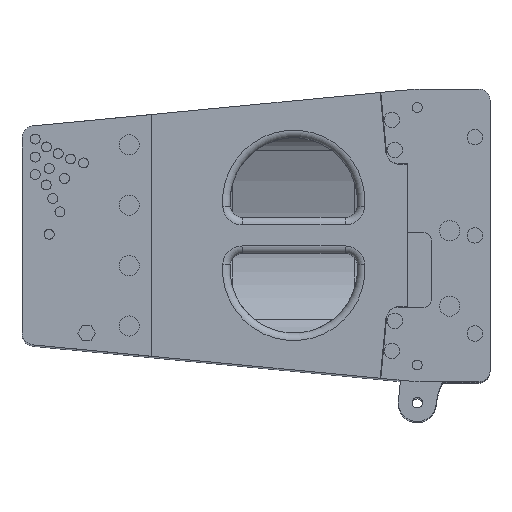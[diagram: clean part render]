
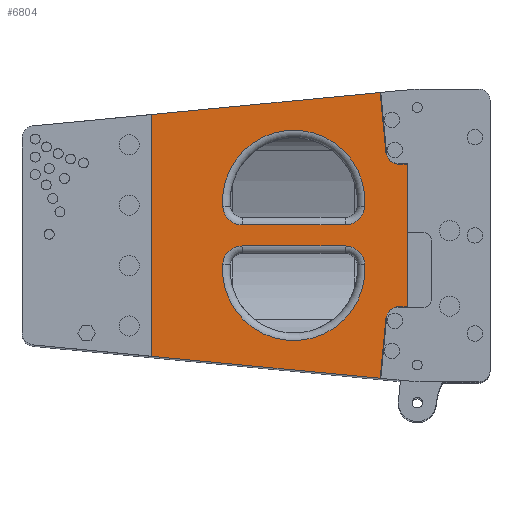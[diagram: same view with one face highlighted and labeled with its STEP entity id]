
A CAD part, top view. The second image highlights one B-rep face of the part: STEP entity #6804.
In plain terms, the highlighted planar face has unit normal (0, 0, 1).
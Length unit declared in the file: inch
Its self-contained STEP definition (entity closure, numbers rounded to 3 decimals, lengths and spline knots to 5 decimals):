
#136=FACE_BOUND('',#1496,.T.);
#137=FACE_BOUND('',#1497,.T.);
#647=CIRCLE('',#7372,0.425);
#648=CIRCLE('',#7373,0.425);
#649=CIRCLE('',#7374,2.36);
#650=CIRCLE('',#7375,0.65);
#651=CIRCLE('',#7376,0.65);
#652=CIRCLE('',#7377,2.36);
#653=CIRCLE('',#7378,0.65);
#654=CIRCLE('',#7379,0.65);
#1017=FACE_OUTER_BOUND('',#1495,.T.);
#1495=EDGE_LOOP('',(#5016,#5017,#5018,#5019,#5020,#5021,#5022,#5023,#5024,
#5025));
#1496=EDGE_LOOP('',(#5026,#5027,#5028,#5029));
#1497=EDGE_LOOP('',(#5030,#5031,#5032,#5033));
#1971=LINE('',#10381,#2487);
#2040=LINE('',#10641,#2556);
#2141=LINE('',#11039,#2657);
#2142=LINE('',#11040,#2658);
#2143=LINE('',#11042,#2659);
#2144=LINE('',#11046,#2660);
#2145=LINE('',#11048,#2661);
#2146=LINE('',#11050,#2662);
#2147=LINE('',#11058,#2663);
#2148=LINE('',#11066,#2664);
#2487=VECTOR('',#8092,7.59823);
#2556=VECTOR('',#8259,7.59823);
#2657=VECTOR('',#8626,1.99827);
#2658=VECTOR('',#8627,8.00799);
#2659=VECTOR('',#8628,1.99827);
#2660=VECTOR('',#8631,0.28213);
#2661=VECTOR('',#8632,4.71783);
#2662=VECTOR('',#8633,0.28213);
#2663=VECTOR('',#8640,3.41085);
#2664=VECTOR('',#8647,3.41085);
#3003=VERTEX_POINT('',#10378);
#3004=VERTEX_POINT('',#10380);
#3095=VERTEX_POINT('',#10638);
#3096=VERTEX_POINT('',#10640);
#3260=VERTEX_POINT('',#11038);
#3261=VERTEX_POINT('',#11041);
#3262=VERTEX_POINT('',#11043);
#3263=VERTEX_POINT('',#11045);
#3264=VERTEX_POINT('',#11047);
#3265=VERTEX_POINT('',#11049);
#3266=VERTEX_POINT('',#11052);
#3267=VERTEX_POINT('',#11053);
#3268=VERTEX_POINT('',#11055);
#3269=VERTEX_POINT('',#11057);
#3270=VERTEX_POINT('',#11060);
#3271=VERTEX_POINT('',#11061);
#3272=VERTEX_POINT('',#11063);
#3273=VERTEX_POINT('',#11065);
#3639=EDGE_CURVE('',#3004,#3003,#1971,.T.);
#3745=EDGE_CURVE('',#3096,#3095,#2040,.T.);
#3948=EDGE_CURVE('',#3004,#3260,#2141,.T.);
#3949=EDGE_CURVE('',#3003,#3096,#2142,.T.);
#3950=EDGE_CURVE('',#3261,#3095,#2143,.T.);
#3951=EDGE_CURVE('',#3262,#3261,#647,.T.);
#3952=EDGE_CURVE('',#3263,#3262,#2144,.T.);
#3953=EDGE_CURVE('',#3264,#3263,#2145,.T.);
#3954=EDGE_CURVE('',#3265,#3264,#2146,.T.);
#3955=EDGE_CURVE('',#3260,#3265,#648,.T.);
#3956=EDGE_CURVE('',#3266,#3267,#649,.F.);
#3957=EDGE_CURVE('',#3267,#3268,#650,.F.);
#3958=EDGE_CURVE('',#3268,#3269,#2147,.F.);
#3959=EDGE_CURVE('',#3269,#3266,#651,.F.);
#3960=EDGE_CURVE('',#3270,#3271,#652,.F.);
#3961=EDGE_CURVE('',#3271,#3272,#653,.F.);
#3962=EDGE_CURVE('',#3272,#3273,#2148,.F.);
#3963=EDGE_CURVE('',#3273,#3270,#654,.F.);
#5016=ORIENTED_EDGE('',*,*,#3948,.F.);
#5017=ORIENTED_EDGE('',*,*,#3639,.T.);
#5018=ORIENTED_EDGE('',*,*,#3949,.T.);
#5019=ORIENTED_EDGE('',*,*,#3745,.T.);
#5020=ORIENTED_EDGE('',*,*,#3950,.F.);
#5021=ORIENTED_EDGE('',*,*,#3951,.F.);
#5022=ORIENTED_EDGE('',*,*,#3952,.F.);
#5023=ORIENTED_EDGE('',*,*,#3953,.F.);
#5024=ORIENTED_EDGE('',*,*,#3954,.F.);
#5025=ORIENTED_EDGE('',*,*,#3955,.F.);
#5026=ORIENTED_EDGE('',*,*,#3956,.T.);
#5027=ORIENTED_EDGE('',*,*,#3957,.T.);
#5028=ORIENTED_EDGE('',*,*,#3958,.T.);
#5029=ORIENTED_EDGE('',*,*,#3959,.T.);
#5030=ORIENTED_EDGE('',*,*,#3960,.T.);
#5031=ORIENTED_EDGE('',*,*,#3961,.T.);
#5032=ORIENTED_EDGE('',*,*,#3962,.T.);
#5033=ORIENTED_EDGE('',*,*,#3963,.T.);
#6600=PLANE('',#7371);
#6804=ADVANCED_FACE('',(#1017,#136,#137),#6600,.T.);
#7371=AXIS2_PLACEMENT_3D('',#11037,#8624,#8625);
#7372=AXIS2_PLACEMENT_3D('',#11044,#8629,#8630);
#7373=AXIS2_PLACEMENT_3D('',#11051,#8634,#8635);
#7374=AXIS2_PLACEMENT_3D('',#11054,#8636,#8637);
#7375=AXIS2_PLACEMENT_3D('',#11056,#8638,#8639);
#7376=AXIS2_PLACEMENT_3D('',#11059,#8641,#8642);
#7377=AXIS2_PLACEMENT_3D('',#11062,#8643,#8644);
#7378=AXIS2_PLACEMENT_3D('',#11064,#8645,#8646);
#7379=AXIS2_PLACEMENT_3D('',#11067,#8648,#8649);
#8092=DIRECTION('',(-0.995,-0.096,0.));
#8259=DIRECTION('',(0.995,-0.096,0.));
#8624=DIRECTION('center_axis',(0.,0.,1.));
#8625=DIRECTION('ref_axis',(1.,0.,0.));
#8626=DIRECTION('',(0.096,-0.995,0.));
#8627=DIRECTION('',(0.,-1.,0.));
#8628=DIRECTION('',(-0.096,-0.995,0.));
#8629=DIRECTION('center_axis',(0.,0.,1.));
#8630=DIRECTION('ref_axis',(1.,0.,0.));
#8631=DIRECTION('',(-1.,0.,0.));
#8632=DIRECTION('',(0.,-1.,0.));
#8633=DIRECTION('',(1.,0.,0.));
#8634=DIRECTION('center_axis',(0.,0.,1.));
#8635=DIRECTION('ref_axis',(1.,0.,0.));
#8636=DIRECTION('center_axis',(0.,0.,1.));
#8637=DIRECTION('ref_axis',(1.,0.,0.));
#8638=DIRECTION('center_axis',(0.,0.,1.));
#8639=DIRECTION('ref_axis',(1.,0.,0.));
#8640=DIRECTION('',(1.,0.,0.));
#8641=DIRECTION('center_axis',(0.,0.,1.));
#8642=DIRECTION('ref_axis',(1.,0.,0.));
#8643=DIRECTION('center_axis',(0.,0.,1.));
#8644=DIRECTION('ref_axis',(1.,0.,0.));
#8645=DIRECTION('center_axis',(0.,0.,1.));
#8646=DIRECTION('ref_axis',(1.,0.,0.));
#8647=DIRECTION('',(-1.,0.,0.));
#8648=DIRECTION('center_axis',(0.,0.,1.));
#8649=DIRECTION('ref_axis',(1.,0.,0.));
#10378=CARTESIAN_POINT('',(-8.79163,4.00399,0.));
#10380=CARTESIAN_POINT('',(-1.22838,4.73225,0.));
#10381=CARTESIAN_POINT('',(-1.22838,4.73225,0.));
#10638=CARTESIAN_POINT('',(-1.22838,-4.73225,0.));
#10640=CARTESIAN_POINT('',(-8.79163,-4.00399,0.));
#10641=CARTESIAN_POINT('',(-8.79163,-4.00399,0.));
#11037=CARTESIAN_POINT('Origin',(2.0344,4.4728,0.));
#11038=CARTESIAN_POINT('',(-1.03686,2.74318,0.));
#11039=CARTESIAN_POINT('',(-1.22838,4.73225,0.));
#11040=CARTESIAN_POINT('',(-8.79163,4.00399,0.));
#11041=CARTESIAN_POINT('',(-1.03686,-2.74318,0.));
#11042=CARTESIAN_POINT('',(-1.03686,-2.74318,0.));
#11043=CARTESIAN_POINT('',(-0.61381,-2.35892,0.));
#11044=CARTESIAN_POINT('Origin',(-0.61381,-2.78392,0.));
#11045=CARTESIAN_POINT('',(-0.33168,-2.35892,0.));
#11046=CARTESIAN_POINT('',(-0.33168,-2.35892,0.));
#11047=CARTESIAN_POINT('',(-0.33168,2.35892,0.));
#11048=CARTESIAN_POINT('',(-0.33168,2.35892,0.));
#11049=CARTESIAN_POINT('',(-0.61381,2.35892,0.));
#11050=CARTESIAN_POINT('',(-0.61381,2.35892,0.));
#11051=CARTESIAN_POINT('Origin',(-0.61381,2.78392,0.));
#11052=CARTESIAN_POINT('',(-6.44429,0.95249,0.));
#11053=CARTESIAN_POINT('',(-1.73691,0.95249,0.));
#11054=CARTESIAN_POINT('Origin',(-4.0906,1.125,0.));
#11055=CARTESIAN_POINT('',(-2.38517,0.35,0.));
#11056=CARTESIAN_POINT('Origin',(-2.38517,1.,0.));
#11057=CARTESIAN_POINT('',(-5.79603,0.35,0.));
#11058=CARTESIAN_POINT('',(-5.79603,0.35,0.));
#11059=CARTESIAN_POINT('Origin',(-5.79603,1.,0.));
#11060=CARTESIAN_POINT('',(-1.73691,-0.95249,0.));
#11061=CARTESIAN_POINT('',(-6.44429,-0.95249,0.));
#11062=CARTESIAN_POINT('Origin',(-4.0906,-1.125,0.));
#11063=CARTESIAN_POINT('',(-5.79603,-0.35,0.));
#11064=CARTESIAN_POINT('Origin',(-5.79603,-1.,0.));
#11065=CARTESIAN_POINT('',(-2.38517,-0.35,0.));
#11066=CARTESIAN_POINT('',(-2.38517,-0.35,0.));
#11067=CARTESIAN_POINT('Origin',(-2.38517,-1.,0.));
